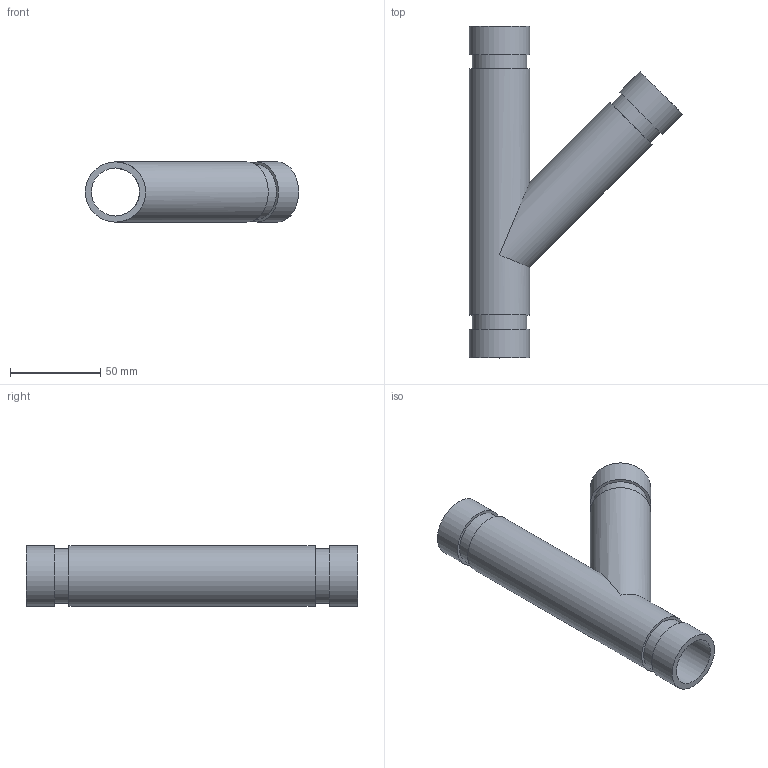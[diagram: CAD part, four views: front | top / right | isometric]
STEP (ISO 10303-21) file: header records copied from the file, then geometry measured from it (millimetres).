
FILE_DESCRIPTION(/* description */ ('VIC 45 DEG FABRICATED LATERAL No 30 SWS (OGS)','CAx-IF Rec.Pracs.---Representation and Presentation of Product Manufacturing Information (PMI)---4.0---2014-10-13'),/* implementation_level */ '2;1');
FILE_NAME(/* name */ 'C:\Users\kkamble\AppData\Roaming\Autodesk\ApplicationPlugins\Back Up\Victaulic_IPS_Lateral 45 Deg_No 30 SWS (OGS)\Victaulic_IPS_Lateral 45 Deg_No 30 SWS (OGS)_1 (25).stp',/* time_stamp */ '2020-09-16T22:20:18+06:00',/* author */ ('cgray'),/* organization */ ('Victaulic'),/* preprocessor_version */ 'ST-DEVELOPER v17.2',/* originating_system */ 'Autodesk Inventor 2019',/* authorisation */ '');
FILE_SCHEMA (('AP242_MANAGED_MODEL_BASED_3D_ENGINEERING_MIM_LF { 1 0 10303 442 1 1 4 }'));
Length unit declared in the file: inch
Products named in the file (1): 30 SWS-01.0
Bounding box: 118.31 x 184.15 x 33.4 mm (x, y, z)
Volume: 86708.6 mm3; surface area: 55201.5 mm2
Topology: 1 solids, 1 shells, 19 faces, 45 edges, 34 vertices
Faces by surface type: cylinder 10, plane 9
Full cylindrical faces by diameter (mm): 26.645 x2, 30.226 x3, 33.401 x5
Entity records: 748 total; most frequent: DIRECTION 145, CARTESIAN_POINT 116, ORIENTED_EDGE 90, AXIS2_PLACEMENT_3D 67, EDGE_CURVE 45, VERTEX_POINT 34, EDGE_LOOP 29, CIRCLE 27
